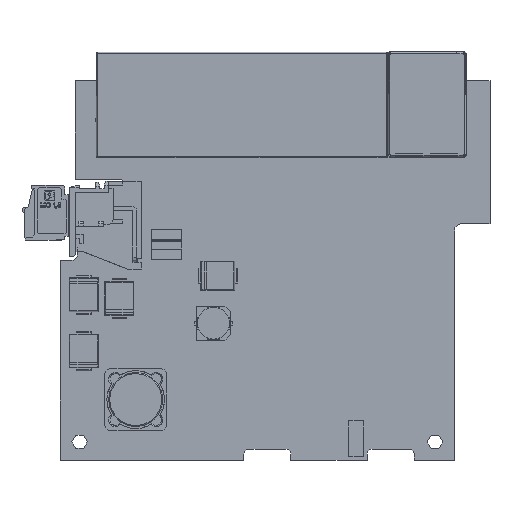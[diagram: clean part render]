
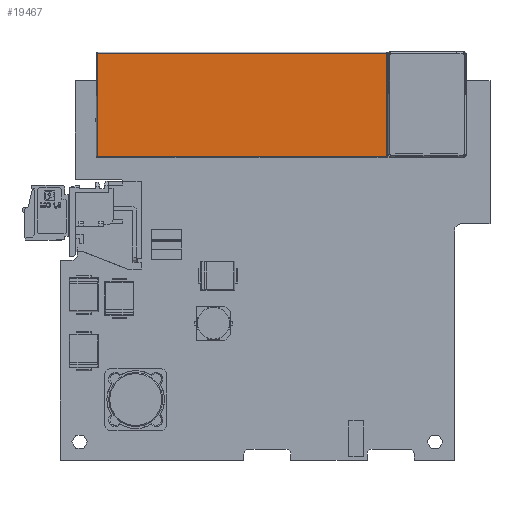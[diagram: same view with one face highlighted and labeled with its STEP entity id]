
A CAD part, top view. The second image highlights one B-rep face of the part: STEP entity #19467.
In plain terms, the highlighted planar face has unit normal (0, 0, 1) as drawn and (0, 1, 0) by its records, which use the part's own axes.
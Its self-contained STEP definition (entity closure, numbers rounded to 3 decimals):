
#19467=ADVANCED_FACE('',(#43146),#43147,.F.);
#43146=FACE_OUTER_BOUND('',#70925,.T.);
#43147=PLANE('',#70926);
#70925=EDGE_LOOP('',(#137362,#137363,#137364,#137365,#137366,#137367));
#70926=AXIS2_PLACEMENT_3D('',#137368,#137369,#137370);
#137362=ORIENTED_EDGE('',*,*,#194007,.T.);
#137363=ORIENTED_EDGE('',*,*,#194263,.T.);
#137364=ORIENTED_EDGE('',*,*,#193862,.F.);
#137365=ORIENTED_EDGE('',*,*,#194261,.T.);
#137366=ORIENTED_EDGE('',*,*,#194086,.T.);
#137367=ORIENTED_EDGE('',*,*,#194081,.T.);
#137368=CARTESIAN_POINT('',(29.325,6.65,0.05));
#137369=DIRECTION('',(0.0,-1.0,0.0));
#137370=DIRECTION('',(0.0,0.0,-1.0));
#193862=EDGE_CURVE('',#237033,#237037,#237038,.T.);
#194007=EDGE_CURVE('',#237266,#237253,#237267,.T.);
#194081=EDGE_CURVE('',#237355,#237266,#237356,.T.);
#194086=EDGE_CURVE('',#237361,#237355,#237362,.T.);
#194261=EDGE_CURVE('',#237033,#237361,#237605,.T.);
#194263=EDGE_CURVE('',#237253,#237037,#237607,.T.);
#237033=VERTEX_POINT('',#300645);
#237037=VERTEX_POINT('',#300650);
#237038=LINE('',#300651,#300652);
#237253=VERTEX_POINT('',#300968);
#237266=VERTEX_POINT('',#300984);
#237267=LINE('',#300985,#300986);
#237355=VERTEX_POINT('',#301109);
#237356=LINE('',#301110,#301111);
#237361=VERTEX_POINT('',#301117);
#237362=LINE('',#301118,#301119);
#237605=LINE('',#301458,#301459);
#237607=LINE('',#301461,#301462);
#300645=CARTESIAN_POINT('',(-29.325,6.65,0.05));
#300650=CARTESIAN_POINT('',(-29.325,6.65,-8.521));
#300651=CARTESIAN_POINT('',(-29.325,6.65,0.05));
#300652=VECTOR('',#350900,8.571);
#300968=CARTESIAN_POINT('',(-29.325,6.65,-20.9));
#300984=CARTESIAN_POINT('',(29.325,6.65,-20.9));
#300985=CARTESIAN_POINT('',(29.325,6.65,-20.9));
#300986=VECTOR('',#351041,58.65);
#301109=CARTESIAN_POINT('',(29.325,6.65,-8.521));
#301110=CARTESIAN_POINT('',(29.325,6.65,-8.521));
#301111=VECTOR('',#351110,12.379);
#301117=CARTESIAN_POINT('',(29.325,6.65,0.05));
#301118=CARTESIAN_POINT('',(29.325,6.65,0.05));
#301119=VECTOR('',#351115,8.571);
#301458=CARTESIAN_POINT('',(-29.325,6.65,0.05));
#301459=VECTOR('',#351284,58.65);
#301461=CARTESIAN_POINT('',(-29.325,6.65,-20.9));
#301462=VECTOR('',#351285,12.379);
#350900=DIRECTION('',(0.,0.0,-1.0));
#351041=DIRECTION('',(-1.0,0.0,0.));
#351110=DIRECTION('',(0.,0.0,-1.0));
#351115=DIRECTION('',(0.,0.0,-1.0));
#351284=DIRECTION('',(1.0,0.0,0.));
#351285=DIRECTION('',(0.,0.0,1.0));
